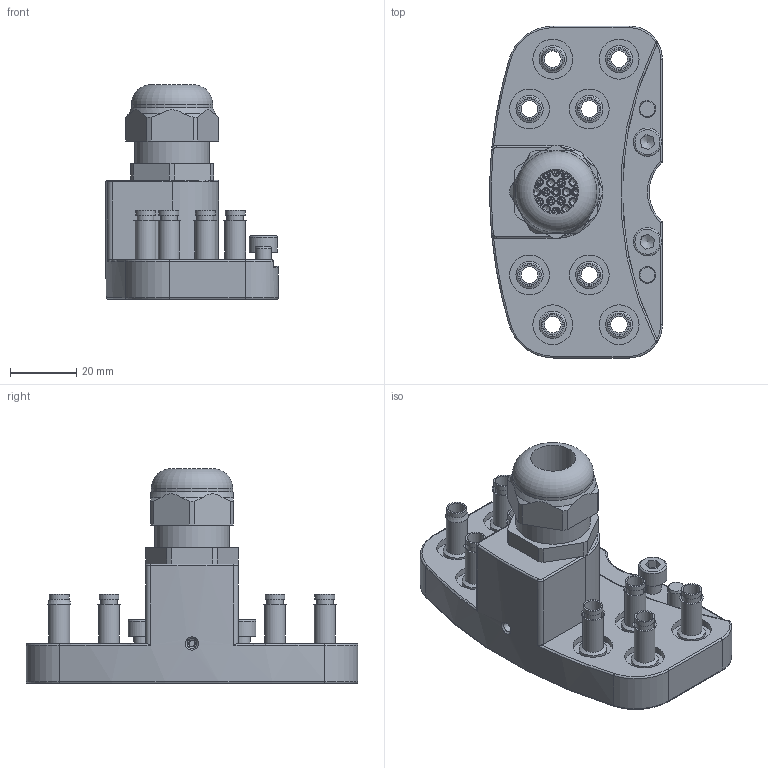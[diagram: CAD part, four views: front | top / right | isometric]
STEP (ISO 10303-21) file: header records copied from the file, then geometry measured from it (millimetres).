
FILE_DESCRIPTION(/* description */ (''),/* implementation_level */ '2;1');
FILE_NAME(/* name */ 'T:\Engineering\Homepage\Homepage 2020\4 3D Step-Daten - Homepage\5 MEK\G-MEK200-U-8Pk6-1E19C-M20.stp',/* time_stamp */ '2023-01-06T10:49:31+01:00',/* author */ ('ysplieth'),/* organization */ (''),/* preprocessor_version */ 'ST-DEVELOPER v17',/* originating_system */ 'Autodesk Inventor 2018',/* authorisation */ '');
FILE_SCHEMA (('AUTOMOTIVE_DESIGN { 1 0 10303 214 3 1 1 }'));
Length unit declared in the file: millimetre
Products named in the file (1): Bauteil2
Bounding box: 52 x 100 x 64.68 mm (x, y, z)
Volume: 75407.6 mm3; surface area: 38074.9 mm2
Topology: 3 solids, 3 shells, 1111 faces, 2951 edges, 2043 vertices
Faces by surface type: plane 493, cylinder 260, bspline 236, cone 71, torus 29, sphere 22
Full cylindrical faces by diameter (mm): 1 x16, 1.2 x16, 1.5 x5, 1.7 x1, 2 x38, 2.2 x3, 2.5 x16, 2.6 x16, 2.7 x3, 2.8 x3, 3 x1, 4.134 x2, 5 x12, 5.02 x2, 6 x8, 6.3 x8, 7.5 x8, 8.1 x8, 8.2 x8, 8.4 x8, 8.5 x2, 10 x8, 10.3 x8, 12 x8, 13.5 x1, 15 x2, 17.1 x1, 17.294 x2, 22.5 x1, 23 x2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
Entity records: 37837 total; most frequent: CARTESIAN_POINT 10231, ORIENTED_EDGE 5834, DIRECTION 5197, EDGE_CURVE 2917, VERTEX_POINT 2044, AXIS2_PLACEMENT_3D 1917, EDGE_LOOP 1374, LINE 1363
